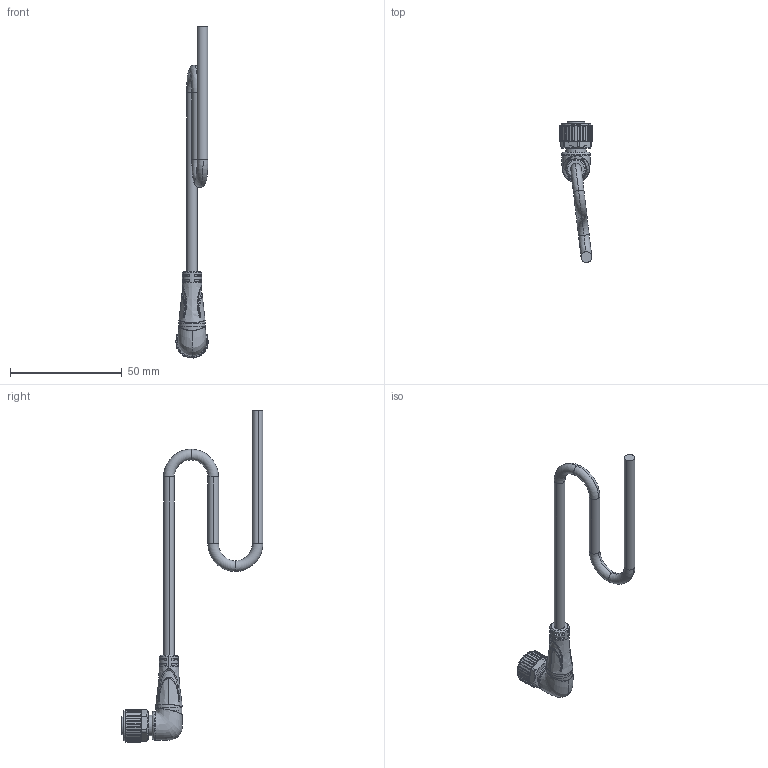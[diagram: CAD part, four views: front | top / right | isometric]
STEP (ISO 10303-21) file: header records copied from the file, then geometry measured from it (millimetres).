
FILE_DESCRIPTION (( 'STEP AP214' ), '1' );
FILE_NAME ('M12俔芛5P譫傷.STEP', '2024-12-20T10:13:19', ( 'Windows User' ), ( 'P R C' ), 'SwSTEP 2.0', 'SolidWorks 2023', '' );
FILE_SCHEMA (( 'AUTOMOTIVE_DESIGN' ));
Length unit declared in the file: millimetre
Products named in the file (7): M12-90°包胶; SD1100803-M12滚花螺母（内螺纹对边13）-A0; O型圈10×7×1.5; SD1705289-M12母端插针-A1; M12弯头5P母端; 导线_φ4.8; SD1705307-M12-5P母端插座-B0
Assembly tree (10 placements, depth 2):
  M12弯头5P母端
    SD1100803-M12滚花螺母（内螺纹对边13）-A0
    SD1705289-M12母端插针-A1  x5
    导线_φ4.8
    M12-90°包胶
    SD1705307-M12-5P母端插座-B0
    O型圈10×7×1.5
Bounding box: 14.8 x 63.52 x 148.86 mm (x, y, z)
Volume: 9379.2 mm3; surface area: 8860.1 mm2
Topology: 10 solids, 10 shells, 1997 faces, 5400 edges, 3415 vertices
Faces by surface type: plane 780, cylinder 646, bspline 270, cone 247, torus 48, sphere 6
Entity records: 54058 total; most frequent: CARTESIAN_POINT 28345, ORIENTED_EDGE 5860, DIRECTION 4706, EDGE_CURVE 2930, VERTEX_POINT 1867, AXIS2_PLACEMENT_3D 1782, EDGE_LOOP 1147, VECTOR 1142
